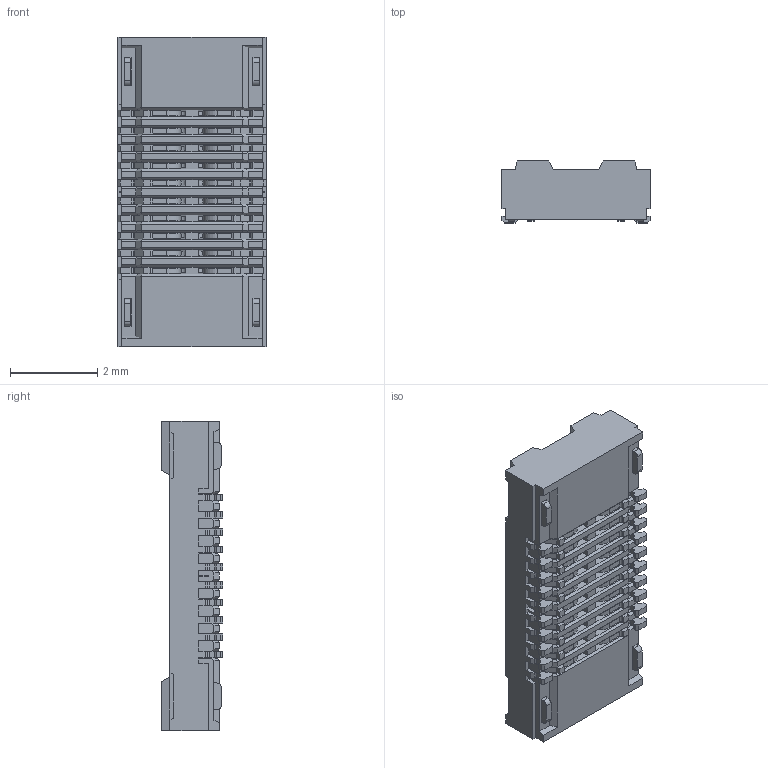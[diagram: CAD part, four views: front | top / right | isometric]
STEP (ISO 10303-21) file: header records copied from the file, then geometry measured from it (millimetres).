
FILE_DESCRIPTION((''),'2;1');
FILE_NAME('S-51049-010XX-001','2014-03-22T',('d21260'),(''),'PRO/ENGINEER BY PARAMETRIC TECHNOLOGY CORPORATION, 2009360','PRO/ENGINEER BY PARAMETRIC TECHNOLOGY CORPORATION, 2009360','');
FILE_SCHEMA(('CONFIG_CONTROL_DESIGN'));
Products named in the file (1): S-51049-010XX-001
Bounding box: 3.4 x 1.42 x 7.11 mm (x, y, z)
Volume: 17.3 mm3; surface area: 180 mm2
Topology: 1 solids, 1 shells, 2520 faces, 8006 edges, 5284 vertices
Faces by surface type: plane 1812, cylinder 696, bspline 4, torus 4, cone 4
Entity records: 89055 total; most frequent: CARTESIAN_POINT 17778, ORIENTED_EDGE 15812, DIRECTION 13850, EDGE_CURVE 7906, VECTOR 6382, LINE 6382, VERTEX_POINT 5188, AXIS2_PLACEMENT_3D 3734
